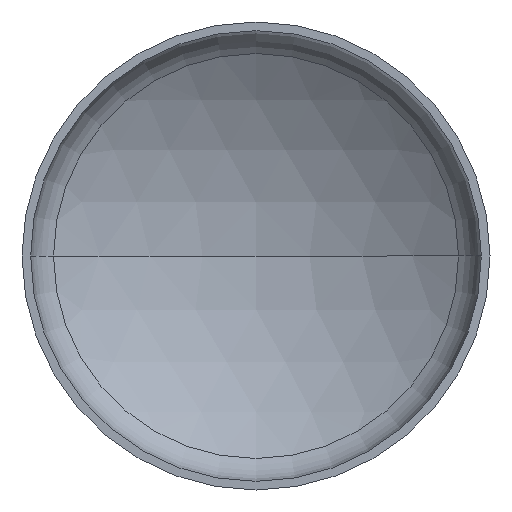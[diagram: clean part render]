
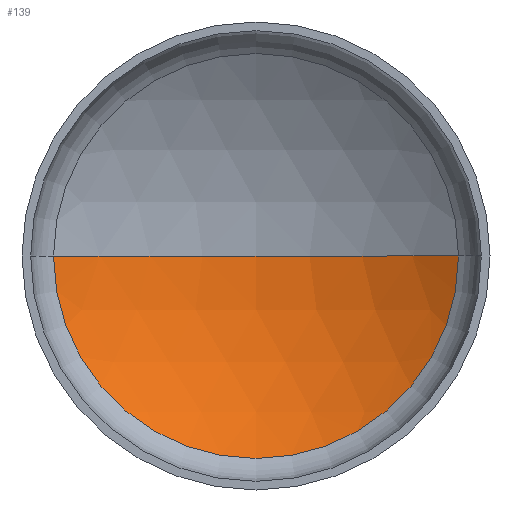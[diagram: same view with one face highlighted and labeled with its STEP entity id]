
A CAD part, front view. The second image highlights one B-rep face of the part: STEP entity #139.
In plain terms, the highlighted spherical face has radius 82.4 mm.
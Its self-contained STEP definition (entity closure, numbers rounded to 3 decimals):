
#6 = EDGE_CURVE ( 'NONE', #83, #258, #162, .T. ) ;
#15 = VERTEX_POINT ( 'NONE', #56 ) ;
#24 = AXIS2_PLACEMENT_3D ( 'NONE', #41, #306, #31 ) ;
#31 = DIRECTION ( 'NONE',  ( -1., 0., 0. ) ) ;
#33 = ORIENTED_EDGE ( 'NONE', *, *, #294, .T. ) ;
#41 = CARTESIAN_POINT ( 'NONE',  ( 0., 11.477, 0. ) ) ;
#53 = EDGE_LOOP ( 'NONE', ( #267, #33, #112 ) ) ;
#56 = CARTESIAN_POINT ( 'NONE',  ( 46.717, 11.477, 0. ) ) ;
#64 = DIRECTION ( 'NONE',  ( -1., 0., 0. ) ) ;
#69 = CARTESIAN_POINT ( 'NONE',  ( 0., 26., 0. ) ) ;
#75 = AXIS2_PLACEMENT_3D ( 'NONE', #177, #330, #366 ) ;
#83 = VERTEX_POINT ( 'NONE', #184 ) ;
#96 = CARTESIAN_POINT ( 'NONE',  ( 0., -56.4, 0. ) ) ;
#97 = CIRCLE ( 'NONE', #146, 82.4 ) ;
#112 = ORIENTED_EDGE ( 'NONE', *, *, #6, .F. ) ;
#127 = DIRECTION ( 'NONE',  ( 0., 0., 1. ) ) ;
#139 = ADVANCED_FACE ( 'NONE', ( #407 ), #244, .F. ) ;
#146 = AXIS2_PLACEMENT_3D ( 'NONE', #96, #213, #220 ) ;
#162 = CIRCLE ( 'NONE', #75, 82.4 ) ;
#177 = CARTESIAN_POINT ( 'NONE',  ( 0., -56.4, 0. ) ) ;
#181 = AXIS2_PLACEMENT_3D ( 'NONE', #343, #127, #64 ) ;
#184 = CARTESIAN_POINT ( 'NONE',  ( -46.717, 11.477, 0. ) ) ;
#213 = DIRECTION ( 'NONE',  ( 0., 0., 1. ) ) ;
#218 = CIRCLE ( 'NONE', #24, 46.717 ) ;
#220 = DIRECTION ( 'NONE',  ( 1., 0., 0. ) ) ;
#244 = SPHERICAL_SURFACE ( 'NONE', #181, 82.4 ) ;
#258 = VERTEX_POINT ( 'NONE', #69 ) ;
#267 = ORIENTED_EDGE ( 'NONE', *, *, #279, .F. ) ;
#279 = EDGE_CURVE ( 'NONE', #15, #83, #218, .T. ) ;
#294 = EDGE_CURVE ( 'NONE', #15, #258, #97, .T. ) ;
#306 = DIRECTION ( 'NONE',  ( 0., 1., 0. ) ) ;
#330 = DIRECTION ( 'NONE',  ( 0., 0., -1. ) ) ;
#343 = CARTESIAN_POINT ( 'NONE',  ( 0., -56.4, 0. ) ) ;
#366 = DIRECTION ( 'NONE',  ( -1., 0., 0. ) ) ;
#407 = FACE_OUTER_BOUND ( 'NONE', #53, .T. ) ;
